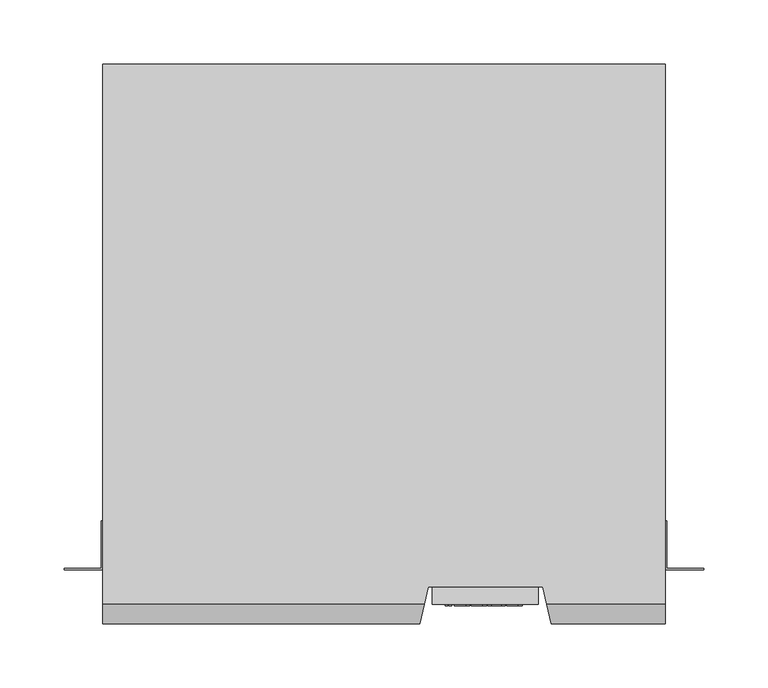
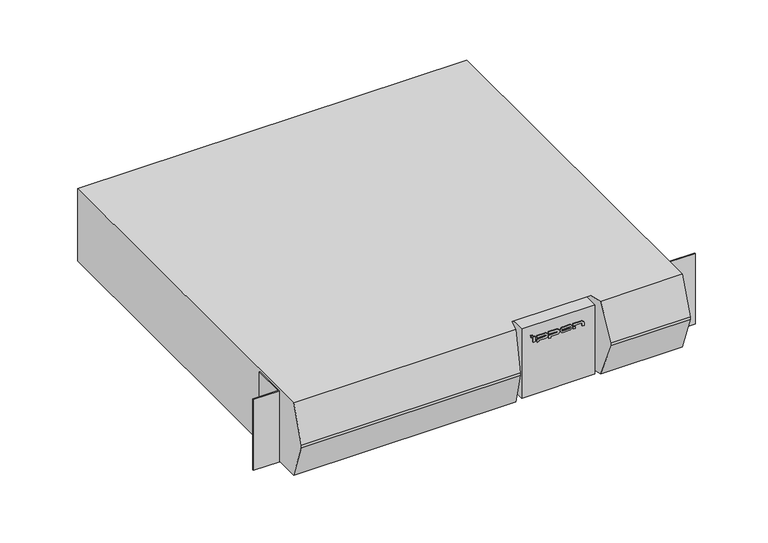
"""IFC4 building model written with IfcOpenShell, lengths in millimetres: proxy geometry, IPPON_EBM_Innova RT_1000_1500-2000_3000ВА : БМ Innova RT 1000 ВА."""

import ifcopenshell
import ifcopenshell.guid

model = None  # the IFC model being written
_history = None  # IfcOwnerHistory: only IFC2X3 demands one
_inside = {}  # id of a spatial element -> (the spatial element, [elements in it])
_under = {}  # id of a project, library or spatial element -> (it, [spatial elements below it])
_declared = {}  # id of a project -> (the project, [libraries it declares])
_typed = {}  # id of a type object -> (the type object, [elements of that type])
_made_of = {}  # id of a material, layer set ... -> (it, [elements and type objects made of it])


def new_model(schema):
    """Start an empty IFC model of exactly this schema.

    Asked for "IFC4X3", IfcOpenShell would pick the latest addendum, in which some entities
    have other attributes; the version numbers below select the first issue.
    IFC2X3 requires an IfcOwnerHistory on every rooted entity: one is made here for all.
    """
    global model, _history
    if schema == "IFC4X3":
        model = ifcopenshell.file(schema_version=(4, 3, 0, 0))
    else:
        model = ifcopenshell.file(schema=schema)
    _inside.clear()
    _under.clear()
    _declared.clear()
    _typed.clear()
    _made_of.clear()
    _history = None
    if model.schema == "IFC2X3":
        org = make("IfcOrganization", Name="unknown")
        user = make(
            "IfcPersonAndOrganization",
            ThePerson=make("IfcPerson", FamilyName="unknown"),
            TheOrganization=org,
        )
        app = make(
            "IfcApplication",
            ApplicationDeveloper=org,
            Version="unknown",
            ApplicationFullName="unknown",
            ApplicationIdentifier="unknown",
        )
        _history = make(
            "IfcOwnerHistory",
            OwningUser=user,
            OwningApplication=app,
            ChangeAction="ADDED",
            CreationDate=0,
        )
    return model


def make(cls, **values):
    """One entity of the class cls with the attributes given. An attribute that is None is left unset."""
    return model.create_entity(
        cls, **{name: value for name, value in values.items() if value is not None}
    )


def rooted(cls, **values):
    """An entity with a GlobalId (a new one), such as an element, a storey or a relation."""
    return make(cls, GlobalId=ifcopenshell.guid.new(), OwnerHistory=_history, **values)


def si_unit(unit_type, name, prefix=None):
    """IfcSIUnit, for example si_unit("LENGTHUNIT", "METRE", prefix="MILLI")."""
    return make("IfcSIUnit", UnitType=unit_type, Prefix=prefix, Name=name)


def assignment(units):
    """IfcUnitAssignment: the units of a project."""
    return None if units is None else make("IfcUnitAssignment", Units=units)


def point(xyz):
    """IfcCartesianPoint."""
    return None if xyz is None else make("IfcCartesianPoint", Coordinates=xyz)


def direction(xyz):
    """IfcDirection."""
    return None if xyz is None else make("IfcDirection", DirectionRatios=xyz)


def frame(location, z_axis=None, x_axis=None):
    """IfcAxis2Placement3D, a coordinate frame: its origin and axes. An axis left out is left unset."""
    return make(
        "IfcAxis2Placement3D",
        Location=point(location),
        Axis=direction(z_axis),
        RefDirection=direction(x_axis),
    )


def frame_2d(location, x_axis=None):
    """IfcAxis2Placement2D, a coordinate frame in the plane: its origin and x axis."""
    return make(
        "IfcAxis2Placement2D", Location=point(location), RefDirection=direction(x_axis)
    )


def origin():
    """The frame at (0, 0, 0) with its axes left unset."""
    return frame((0.0, 0.0, 0.0))


def place(relative_to, where):
    """IfcLocalPlacement: puts the frame where relative to a parent placement (None: the world)."""
    return make(
        "IfcLocalPlacement", PlacementRelTo=relative_to, RelativePlacement=where
    )


def context(
    kind, dimensions, precision=None, world=None, true_north=None, identifier=None
):
    """IfcGeometricRepresentationContext, for example the 3D "Model" context."""
    return make(
        "IfcGeometricRepresentationContext",
        ContextIdentifier=identifier,
        ContextType=kind,
        CoordinateSpaceDimension=dimensions,
        Precision=precision,
        WorldCoordinateSystem=world,
        TrueNorth=true_north,
    )


def project(units=None, contexts=None):
    """IfcProject with its units and contexts."""
    return rooted(
        "IfcProject",
        Name="project",
        RepresentationContexts=contexts,
        UnitsInContext=assignment(units),
    )


def spatial(cls, under=None, at=None, **own):
    """A site, building, storey or space (cls), placed at a placement, below another one or the project."""
    s = rooted(cls, ObjectPlacement=at, **own)
    if under is not None:
        _under.setdefault(under.id(), (under, []))[1].append(s)
    return s


def polyline(points):
    """IfcPolyline through the points."""
    return make("IfcPolyline", Points=[point(p) for p in points])


def circle_curve(where, radius):
    """IfcCircle in the frame where."""
    return make("IfcCircle", Position=where, Radius=radius)


def trimmed(basis, trim1, trim2, sense, master):
    """IfcTrimmedCurve: the piece of a basis curve between two trims."""
    return make(
        "IfcTrimmedCurve",
        BasisCurve=basis,
        Trim1=trim1,
        Trim2=trim2,
        SenseAgreement=sense,
        MasterRepresentation=master,
    )


def segment(curve, same_sense, transition):
    """IfcCompositeCurveSegment."""
    return make(
        "IfcCompositeCurveSegment",
        Transition=transition,
        SameSense=same_sense,
        ParentCurve=curve,
    )


def composite_curve(segments, self_intersect=None):
    """IfcCompositeCurve: segments joined end to end."""
    return make("IfcCompositeCurve", Segments=segments, SelfIntersect=self_intersect)


def outline(outer, holes=None, kind="AREA"):
    """IfcArbitraryClosedProfileDef: a profile drawn as a closed curve; with holes, ...WithVoids."""
    if holes is None:
        return make("IfcArbitraryClosedProfileDef", ProfileType=kind, OuterCurve=outer)
    return make(
        "IfcArbitraryProfileDefWithVoids",
        ProfileType=kind,
        OuterCurve=outer,
        InnerCurves=holes,
    )


def extrude(swept, where, along, depth):
    """IfcExtrudedAreaSolid: the profile swept, set in the frame where, extruded along a direction by depth."""
    return make(
        "IfcExtrudedAreaSolid",
        SweptArea=swept,
        Position=where,
        ExtrudedDirection=direction(along),
        Depth=depth,
    )


def faces_of(points, faces, orient=None, outer=None):
    """IfcFace entities. A face is a list of loops; a loop is a list of indices into points, from 0.

    orient and outer hold one flag for each loop. By default every Orientation is true, the
    first loop of a face is its IfcFaceOuterBound and the others are IfcFaceBound.
    """
    made = []
    for i, loops in enumerate(faces):
        bounds = []
        for j, loop in enumerate(loops):
            is_outer = j == 0 if outer is None else outer[i][j]
            bounds.append(
                make(
                    "IfcFaceOuterBound" if is_outer else "IfcFaceBound",
                    Bound=make("IfcPolyLoop", Polygon=[points[k] for k in loop]),
                    Orientation=True if orient is None else orient[i][j],
                )
            )
        made.append(make("IfcFace", Bounds=bounds))
    return made


def faceted_brep(points, faces, orient=None, outer=None, voids=None):
    """IfcFacetedBrep: a solid bounded by flat faces; with voids (closed shells), ...WithVoids."""
    shared = [point(p) for p in points]
    hull = make("IfcClosedShell", CfsFaces=faces_of(shared, faces, orient, outer))
    if voids is None:
        return make("IfcFacetedBrep", Outer=hull)
    return make(
        "IfcFacetedBrepWithVoids",
        Outer=hull,
        Voids=[
            make(cls, CfsFaces=faces_of(shared, fs, o, b)) for cls, fs, o, b in voids
        ],
    )


def shape(context_of_items, identifier, shape_type, items):
    """IfcShapeRepresentation: the items that make up one representation, for example the "Body"."""
    return make(
        "IfcShapeRepresentation",
        ContextOfItems=context_of_items,
        RepresentationIdentifier=identifier,
        RepresentationType=shape_type,
        Items=items,
    )


def source(mapping_origin, context_of_items, identifier, shape_type, items):
    """IfcRepresentationMap: a shape defined once, which mapped items show again and again."""
    return make(
        "IfcRepresentationMap",
        MappingOrigin=mapping_origin,
        MappedRepresentation=shape(context_of_items, identifier, shape_type, items),
    )


def transform(
    local_origin,
    x_axis=None,
    y_axis=None,
    z_axis=None,
    scale=None,
    scale2=None,
    scale3=None,
    uniform=True,
):
    """IfcCartesianTransformationOperator3D, or its non-uniform kind. x_axis, y_axis, z_axis: its Axis1, 2, 3."""
    if uniform:
        return make(
            "IfcCartesianTransformationOperator3D",
            Axis1=direction(x_axis),
            Axis2=direction(y_axis),
            LocalOrigin=point(local_origin),
            Scale=scale,
            Axis3=direction(z_axis),
        )
    return make(
        "IfcCartesianTransformationOperator3DnonUniform",
        Axis1=direction(x_axis),
        Axis2=direction(y_axis),
        LocalOrigin=point(local_origin),
        Scale=scale,
        Axis3=direction(z_axis),
        Scale2=scale2,
        Scale3=scale3,
    )


def mapped(mapping_source, mapping_target):
    """IfcMappedItem: shows the shape of a source again, moved by a transform."""
    return make(
        "IfcMappedItem", MappingSource=mapping_source, MappingTarget=mapping_target
    )


def made_of(thing, what):
    """Note that an element or type object is made of a material, layer set ...; save() writes the relation."""
    if what is not None:
        _made_of.setdefault(what.id(), (what, []))[1].append(thing)
    return thing


def element(
    cls,
    number,
    at=None,
    inside=None,
    cuts=None,
    type_object=None,
    material=None,
    context=None,
    identifier="Body",
    shape_type=None,
    held_by="IfcProductDefinitionShape",
    body=None,
    shapes=None,
    **own,
):
    """One element of the class cls, such as IfcWall. Its Tag is "e" and its number.

    at: its placement. inside: the storey or other place that contains it. cuts: it is an
    opening in that element (IfcRelVoidsElement). A single representation is given by context,
    identifier, shape_type and body (its items); several are given by shapes. held_by: the class
    of the entity that holds the representations. save() writes the other relations.
    """
    e = rooted(cls, Tag="e%d" % number, ObjectPlacement=at, **own)
    if body is not None:
        shapes = [shape(context, identifier, shape_type, body)]
    if shapes is not None:
        e.Representation = make(held_by, Representations=shapes)
    if inside is not None:
        _inside.setdefault(inside.id(), (inside, []))[1].append(e)
    if cuts is not None:
        rooted(
            "IfcRelVoidsElement", RelatingBuildingElement=cuts, RelatedOpeningElement=e
        )
    if type_object is not None:
        _typed.setdefault(type_object.id(), (type_object, []))[1].append(e)
    return made_of(e, material)


def aggregate(whole, parts):
    """IfcRelAggregates: a whole, such as a stair, and the parts it consists of."""
    return rooted("IfcRelAggregates", RelatingObject=whole, RelatedObjects=parts)


def save(model, path):
    """Write the relations noted so far, then the file.

    IfcRelAggregates (storeys below a building ...), IfcRelContainedInSpatialStructure (elements
    in a storey), IfcRelDefinesByType, IfcRelAssociatesMaterial and IfcRelDeclares: one each for
    every whole, place, type object, material and project.
    """
    for whole, parts in _under.values():
        aggregate(whole, parts)
    for where, things in _inside.values():
        rooted(
            "IfcRelContainedInSpatialStructure",
            RelatedElements=things,
            RelatingStructure=where,
        )
    for kind, things in _typed.values():
        rooted("IfcRelDefinesByType", RelatedObjects=things, RelatingType=kind)
    for what, things in _made_of.values():
        rooted("IfcRelAssociatesMaterial", RelatedObjects=things, RelatingMaterial=what)
    for by, libraries in _declared.values():
        rooted("IfcRelDeclares", RelatingContext=by, RelatedDefinitions=libraries)
    model.write(path)


def electrical_equipment_cd2cad51(model_context):
    return source(origin(), model_context, "Body", "SolidModel", [
        extrude(outline(polyline([(49.8281867, 14.0), (47.8281867, 14.0), (47.8281867, 15.0), (49.8281867, 15.0), (49.8281867, 14.0)])), frame((0.0, 0.0, 72.9695835), z_axis=(0.0, 0.0, 1.0), x_axis=(1.0, 0.0, 0.0)), (0.0, 0.0, 1.0), 2.3),
        extrude(outline(polyline([(97.6035474, 14.0), (95.6035474, 14.0), (95.6035474, 15.0), (97.6035474, 15.0), (97.6035474, 14.0)])), frame((0.0, 0.0, 66.9695835), z_axis=(0.0, 0.0, 1.0), x_axis=(1.0, 0.0, 0.0)), (0.0, 0.0, 1.0), 2.2268231),
        extrude(outline(polyline([(52.561435, 14.0), (50.5166676, 14.0), (50.5166676, 15.0), (52.561435, 15.0), (52.561435, 14.0)])), frame((0.0, 0.0, 66.9695835), z_axis=(0.0, 0.0, 1.0), x_axis=(1.0, 0.0, 0.0)), (0.0, 0.0, 1.0), 6.0),
        extrude(outline(composite_curve([segment(polyline([(70.7071435, 54.7758891), (70.7071435, 64.0076464)]), True, "CONTINUOUS"), segment(trimmed(circle_curve(frame_2d((69.8506642, 64.0076464)), 0.8564793), [point((70.7071435, 64.0076464))], [point((68.9941849, 64.0076464))], True, "CARTESIAN"), True, "CONTINUOUS"), segment(polyline([(68.9941849, 64.0076464), (68.9941849, 54.7758891), (65.5036803, 54.7758891), (65.5036803, 56.7758891), (66.9695835, 56.7758891), (66.9695835, 63.8513964)]), True, "CONTINUOUS"), segment(trimmed(circle_curve(frame_2d((69.9695835, 63.8513964)), 3.0), [point((66.9695835, 63.8513964))], [point((72.9695835, 63.8513964))], False, "CARTESIAN"), True, "CONTINUOUS"), segment(polyline([(72.9695835, 63.8513964), (72.9695835, 54.7758891), (70.7071435, 54.7758891)]), True, "CONTINUOUS")], self_intersect=False)), frame((0.0, 14.0, 0.0), z_axis=(0.0, 1.0, 0.0), x_axis=(0.0, 0.0, 1.0)), (0.0, 0.0, 1.0), 1.0),
        extrude(outline(composite_curve([segment(polyline([(70.7071435, 67.9828909), (70.7071435, 77.2146482)]), True, "CONTINUOUS"), segment(trimmed(circle_curve(frame_2d((69.8506642, 77.2146482)), 0.8564793), [point((70.7071435, 77.2146482))], [point((68.9941849, 77.2146482))], True, "CARTESIAN"), True, "CONTINUOUS"), segment(polyline([(68.9941849, 77.2146482), (68.9941849, 67.9828909), (65.5036803, 67.9828909), (65.5036803, 69.9828909), (66.9695835, 69.9828909), (66.9695835, 77.0583982)]), True, "CONTINUOUS"), segment(trimmed(circle_curve(frame_2d((69.9695835, 77.0583982)), 3.0), [point((66.9695835, 77.0583982))], [point((72.9695835, 77.0583982))], False, "CARTESIAN"), True, "CONTINUOUS"), segment(polyline([(72.9695835, 77.0583982), (72.9695835, 67.9828909), (70.7071435, 67.9828909)]), True, "CONTINUOUS")], self_intersect=False)), frame((0.0, 14.0, 0.0), z_axis=(0.0, 1.0, 0.0), x_axis=(0.0, 0.0, 1.0)), (0.0, 0.0, 1.0), 1.0),
        extrude(outline(composite_curve([segment(trimmed(circle_curve(frame_2d((69.9695835, 91.558657)), 3.0), [point((66.9695835, 91.558657))], [point((72.9695835, 91.558657))], False, "CARTESIAN"), True, "CONTINUOUS"), segment(polyline([(72.9695835, 91.558657), (72.9695835, 83.958657)]), True, "CONTINUOUS"), segment(trimmed(circle_curve(frame_2d((69.9695835, 83.958657)), 3.0), [point((72.9695835, 83.958657))], [point((66.9695835, 83.958657))], False, "CARTESIAN"), True, "CONTINUOUS"), segment(polyline([(66.9695835, 83.958657), (66.9695835, 91.558657)]), True, "CONTINUOUS")], self_intersect=False), holes=[composite_curve([segment(polyline([(68.9941849, 91.714907), (68.9941849, 83.802407)]), True, "CONTINUOUS"), segment(trimmed(circle_curve(frame_2d((69.8506642, 83.802407)), 0.8564793), [point((68.9941849, 83.802407))], [point((70.7071435, 83.802407))], True, "CARTESIAN"), True, "CONTINUOUS"), segment(polyline([(70.7071435, 83.802407), (70.7071435, 91.714907)]), True, "CONTINUOUS"), segment(trimmed(circle_curve(frame_2d((69.8506642, 91.714907)), 0.8564793), [point((70.7071435, 91.714907))], [point((68.9941849, 91.714907))], True, "CARTESIAN"), True, "CONTINUOUS")], self_intersect=False)]), frame((0.0, 14.0, 0.0), z_axis=(0.0, 1.0, 0.0), x_axis=(0.0, 0.0, 1.0)), (0.0, 0.0, 1.0), 1.0),
        extrude(outline(composite_curve([segment(polyline([(70.7071435, 95.6035474), (70.7071435, 104.8353046)]), True, "CONTINUOUS"), segment(trimmed(circle_curve(frame_2d((69.8506642, 104.8353046)), 0.8564793), [point((70.7071435, 104.8353046))], [point((69.8506642, 105.6917839))], True, "CARTESIAN"), True, "CONTINUOUS"), segment(polyline([(69.8506642, 105.6917839), (66.9695835, 105.6917839), (66.9695835, 107.6317921), (70.5, 107.6317921)]), True, "CONTINUOUS"), segment(trimmed(circle_curve(frame_2d((69.9695835, 104.6790546)), 3.0), [point((70.5, 107.6317921))], [point((72.9695835, 104.6790546))], False, "CARTESIAN"), True, "CONTINUOUS"), segment(polyline([(72.9695835, 104.6790546), (72.9695835, 95.6035474), (70.7071435, 95.6035474)]), True, "CONTINUOUS")], self_intersect=False)), frame((0.0, 14.0, 0.0), z_axis=(0.0, 1.0, 0.0), x_axis=(0.0, 0.0, 1.0)), (0.0, 0.0, 1.0), 1.0),
        extrude(outline(polyline([(120.25, 15.0), (37.75, 15.0), (37.75, 43.0), (120.25, 43.0), (120.25, 15.0)])), frame((0.0, 0.0, 4.0), z_axis=(0.0, 0.0, 1.0), x_axis=(1.0, 0.0, 0.0)), (0.0, 0.0, 1.0), 82.5),
        faceted_brep([(219.0, 0.0, 43.75), (219.0, 0.0, 46.75), (130.25, 0.0, 46.75), (130.25, 0.0, 43.75), (-219.0, 0.0, 46.75), (-219.0, 0.0, 43.75), (27.75, 0.0, 43.75), (27.75, 0.0, 46.75), (219.0, 15.0, 2.0), (219.0, 436.0, 2.0), (219.0, 436.0, 88.5), (219.0, 15.0, 88.5), (126.7616279, 15.0, 88.5), (-219.0, 15.0, 88.5), (31.2383721, 15.0, 88.5), (-219.0, 436.0, 88.5), (-219.0, 436.0, 2.0), (-219.0, 15.0, 2.0), (126.7616279, 15.0, 2.0), (31.2383721, 15.0, 2.0), (120.25, 43.0, 86.5), (37.75, 43.0, 86.5), (37.75, 43.0, 4.0), (120.25, 43.0, 4.0), (122.25, 34.4, 2.0), (123.5833333, 28.6666667, 88.5), (35.75, 34.4, 2.0), (34.4166667, 28.6666667, 88.5)], [[[0, 1, 2, 3]], [[4, 5, 6, 7]], [[1, 0, 8, 9, 10, 11]], [[1, 11, 12, 2]], [[13, 4, 7, 14]], [[5, 4, 13, 15, 16, 17]], [[8, 0, 3, 18]], [[5, 17, 19, 6]], [[20, 21, 22, 23]], [[20, 23, 24, 18, 3, 2, 12, 25]], [[23, 22, 26, 24]], [[22, 21, 27, 14, 7, 6, 19, 26]], [[21, 20, 25, 27]], [[10, 9, 16, 15]], [[10, 15, 13, 14, 27, 25, 12, 11]], [[16, 9, 8, 18, 24, 26, 19, 17]]]),
        extrude(outline(polyline([(219.0, 42.0), (219.0, 80.0), (220.0, 80.0), (220.0, 43.0), (249.0, 43.0), (249.0, 42.0), (219.0, 42.0)])), frame((0.0, 0.0, 2.0), z_axis=(0.0, 0.0, 1.0), x_axis=(1.0, 0.0, 0.0)), (0.0, 0.0, 1.0), 84.5),
        extrude(outline(polyline([(-219.0, 42.0), (-249.0, 42.0), (-249.0, 43.0), (-220.0, 43.0), (-220.0, 80.0), (-219.0, 80.0), (-219.0, 42.0)])), frame((0.0, 0.0, 2.0), z_axis=(0.0, 0.0, 1.0), x_axis=(1.0, 0.0, 0.0)), (0.0, 0.0, 1.0), 84.5),
    ])


if __name__ == "__main__":
    model = new_model("IFC4")
    model_context = context("Model", 3, world=origin())
    ifc_project = project(units=[si_unit("LENGTHUNIT", "METRE", prefix="MILLI")], contexts=[model_context])
    site = spatial("IfcSite", under=ifc_project)
    building = spatial("IfcBuilding", under=site)
    placement = place(None, origin())
    electrical_equipment_shape = electrical_equipment_cd2cad51(model_context)
    element("IfcBuildingElementProxy", 1, Name="IPPON_EBM_Innova RT_1000_1500-2000_3000ВА : БМ Innova RT 1000 ВА", ObjectType="IPPON_EBM_Innova RT_1000_1500-2000_3000ВА : БМ Innova RT 1000 ВА", at=placement, inside=building, context=model_context, shape_type="MappedRepresentation", body=[
        mapped(electrical_equipment_shape, transform((0.0, 0.0, 0.0), x_axis=(1.0, 0.0, 0.0), y_axis=(0.0, 1.0, 0.0), z_axis=(0.0, 0.0, 1.0))),
    ])
    save(model, "model.ifc")
